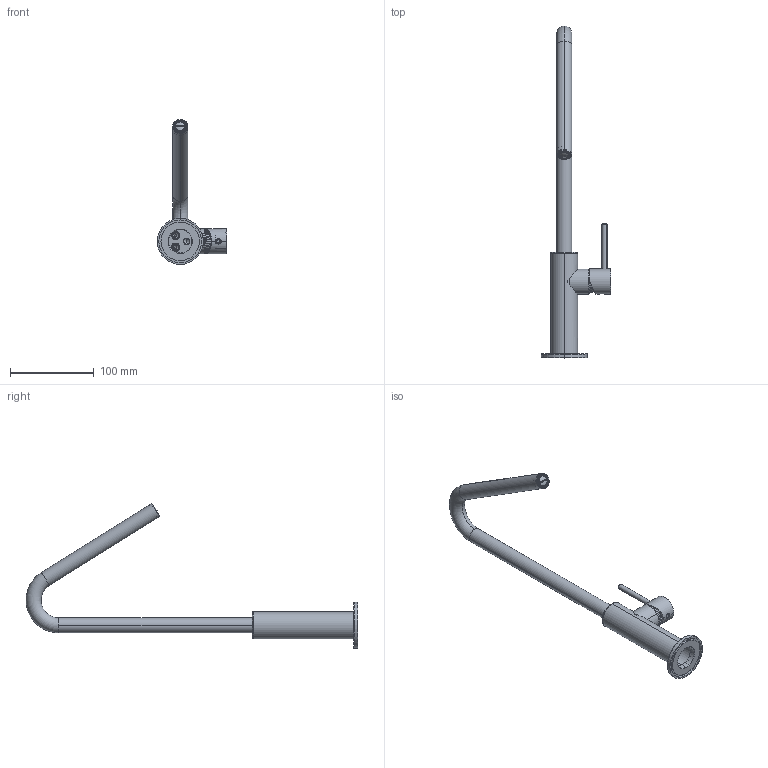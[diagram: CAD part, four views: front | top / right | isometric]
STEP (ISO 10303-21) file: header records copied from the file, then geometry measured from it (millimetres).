
FILE_DESCRIPTION (( 'STEP AP203' ), '1' );
FILE_NAME ('MME6.STEP', '2025-02-07T07:41:05', ( '' ), ( '' ), 'SwSTEP 2.0', 'SolidWorks 2024', '' );
FILE_SCHEMA (( 'CONFIG_CONTROL_DESIGN' ));
Length unit declared in the file: millimetre
Products named in the file (20): C13.00.0043; C24.0119.00.2; C12.00.0004; C24.0370.00.3; C23.0824.01; C24.0029.00.1; C24.0093.00.2; C21.0648.00.1; C10.00.0013; C21.0649.00.0; C24.0120.00.1; C11.14.0019; C19.11.0029.43; MME6; C24.2075.00.0; C47.00.0023.01; C12.00.0054; C11.14.0014; C24.0699.00.0; C24.0372.00.1
Assembly tree (21 placements, depth 3):
  MME6
    C11.14.0014
    C24.0093.00.2
    C19.11.0029.43
      C24.0370.00.3
      C24.2075.00.0
    C24.0029.00.1
    C24.0372.00.1
    C24.0119.00.2
    C24.0120.00.1
    C10.00.0013
    C23.0824.01
    C24.0699.00.0
    C21.0648.00.1
    C21.0649.00.0  x2
    C12.00.0054  x2
    C47.00.0023.01
    C11.14.0019
    C12.00.0004
    C13.00.0043
Bounding box: 83.01 x 395.96 x 172.71 mm (x, y, z)
Volume: 111897 mm3; surface area: 112877.8 mm2
Topology: 19 solids, 29 shells, 1136 faces, 3112 edges, 2019 vertices
Faces by surface type: cylinder 428, plane 362, cone 194, bspline 86, torus 66
Entity records: 42316 total; most frequent: CARTESIAN_POINT 13283, ORIENTED_EDGE 5548, DIRECTION 5498, EDGE_CURVE 3004, AXIS2_PLACEMENT_3D 2157, VERTEX_POINT 1971, EDGE_LOOP 1207, VECTOR 1184
